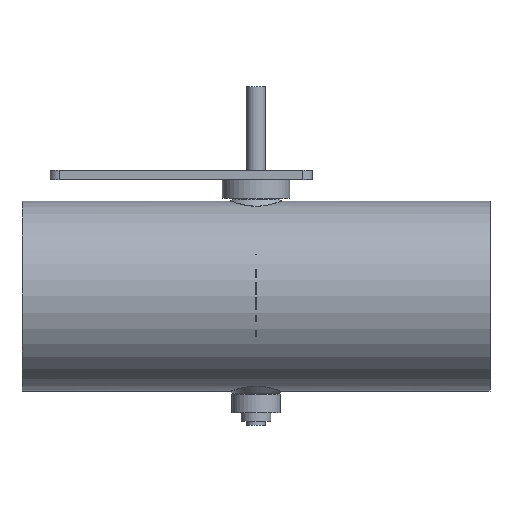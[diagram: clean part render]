
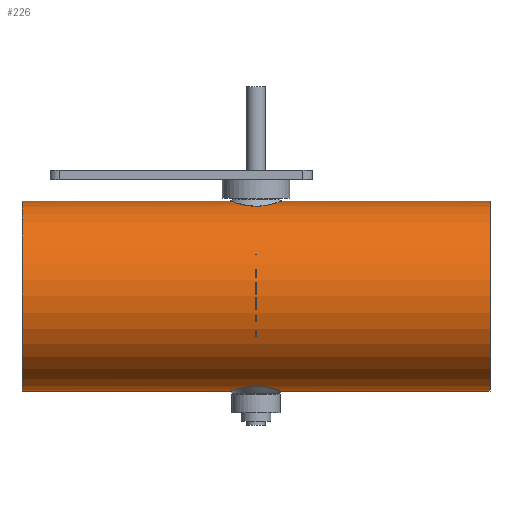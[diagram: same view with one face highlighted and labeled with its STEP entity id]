
A CAD part, top view. The second image highlights one B-rep face of the part: STEP entity #226.
In plain terms, the highlighted cylindrical face has radius 50.8 mm (diameter 101.6 mm), a full revolution.
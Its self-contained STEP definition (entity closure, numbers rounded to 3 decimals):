
#169=B_SPLINE_CURVE_WITH_KNOTS('',3,(#1364,#1365,#1366,#1367,#1368,#1369,
#1370,#1371,#1372,#1373,#1374,#1375,#1376,#1377,#1378,#1379,#1380,#1381,
#1382,#1383,#1384,#1385,#1386,#1387),.UNSPECIFIED.,.T.,.F.,(2,2,2,2,2,2,
2,2,2,2,2,2,2,2),(-0.063,0.,0.063,0.125,0.25,0.375,
0.438,0.5,0.625,0.75,0.875,0.938,1.,1.063),.UNSPECIFIED.);
#170=B_SPLINE_CURVE_WITH_KNOTS('',3,(#1389,#1390,#1391,#1392,#1393,#1394,
#1395,#1396,#1397,#1398,#1399,#1400,#1401,#1402,#1403,#1404,#1405,#1406,
#1407,#1408,#1409,#1410,#1411,#1412,#1413,#1414),.UNSPECIFIED.,.T.,.F.,(2,
2,2,2,2,2,2,2,2,2,2,2,2,2,2),(-0.062,0.,0.063,
0.125,0.25,0.375,0.438,0.5,
0.563,0.625,0.75,0.875,0.938,1.,1.063),.UNSPECIFIED.);
#196=CYLINDRICAL_SURFACE('',#970,50.8);
#226=ADVANCED_FACE('',(#327,#328,#329,#330),#196,.T.);
#327=FACE_BOUND('',#437,.T.);
#328=FACE_BOUND('',#438,.T.);
#329=FACE_BOUND('',#439,.T.);
#330=FACE_BOUND('',#440,.T.);
#437=EDGE_LOOP('',(#561));
#438=EDGE_LOOP('',(#562));
#439=EDGE_LOOP('',(#563));
#440=EDGE_LOOP('',(#564));
#561=ORIENTED_EDGE('',*,*,#813,.T.);
#562=ORIENTED_EDGE('',*,*,#814,.T.);
#563=ORIENTED_EDGE('',*,*,#809,.T.);
#564=ORIENTED_EDGE('',*,*,#811,.T.);
#731=VERTEX_POINT('',#1355);
#733=VERTEX_POINT('',#1360);
#735=VERTEX_POINT('',#1388);
#736=VERTEX_POINT('',#1415);
#809=EDGE_CURVE('',#731,#731,#899,.T.);
#811=EDGE_CURVE('',#733,#733,#901,.T.);
#813=EDGE_CURVE('',#735,#735,#169,.T.);
#814=EDGE_CURVE('',#736,#736,#170,.T.);
#899=CIRCLE('',#964,50.8);
#901=CIRCLE('',#967,50.8);
#964=AXIS2_PLACEMENT_3D('',#1354,#1097,#1098);
#967=AXIS2_PLACEMENT_3D('',#1359,#1103,#1104);
#970=AXIS2_PLACEMENT_3D('',#1416,#1109,#1110);
#1097=DIRECTION('',(-1.,0.,0.));
#1098=DIRECTION('',(0.,0.,1.));
#1103=DIRECTION('',(1.,0.,0.));
#1104=DIRECTION('',(0.,0.,-1.));
#1109=DIRECTION('',(1.,0.,0.));
#1110=DIRECTION('',(0.,0.,-1.));
#1354=CARTESIAN_POINT('',(125.,-8.3,125.));
#1355=CARTESIAN_POINT('',(125.,-8.3,175.8));
#1359=CARTESIAN_POINT('',(-125.,-8.3,125.));
#1360=CARTESIAN_POINT('',(-125.,-8.3,74.2));
#1364=CARTESIAN_POINT('',(-0.641,-56.186,108.034));
#1365=CARTESIAN_POINT('',(-4.642,-56.512,108.986));
#1366=CARTESIAN_POINT('',(-6.468,-56.847,109.98));
#1367=CARTESIAN_POINT('',(-9.553,-57.571,112.56));
#1368=CARTESIAN_POINT('',(-10.827,-57.959,114.145));
#1369=CARTESIAN_POINT('',(-13.777,-58.917,119.411));
#1370=CARTESIAN_POINT('',(-14.546,-59.241,123.656));
#1371=CARTESIAN_POINT('',(-13.401,-58.819,131.681));
#1372=CARTESIAN_POINT('',(-11.513,-58.078,135.52));
#1373=CARTESIAN_POINT('',(-7.107,-56.98,139.59));
#1374=CARTESIAN_POINT('',(-5.35,-56.624,140.679));
#1375=CARTESIAN_POINT('',(-1.462,-56.217,141.883));
#1376=CARTESIAN_POINT('',(0.658,-56.187,141.964));
#1377=CARTESIAN_POINT('',(6.633,-56.676,140.537));
#1378=CARTESIAN_POINT('',(9.833,-57.636,137.623));
#1379=CARTESIAN_POINT('',(13.773,-58.916,130.604));
#1380=CARTESIAN_POINT('',(14.545,-59.241,126.368));
#1381=CARTESIAN_POINT('',(13.406,-58.821,118.329));
#1382=CARTESIAN_POINT('',(11.52,-58.081,114.494));
#1383=CARTESIAN_POINT('',(7.126,-56.984,110.424));
#1384=CARTESIAN_POINT('',(5.371,-56.627,109.329));
#1385=CARTESIAN_POINT('',(1.456,-56.216,108.114));
#1386=CARTESIAN_POINT('',(-0.641,-56.186,108.034));
#1387=CARTESIAN_POINT('',(-4.642,-56.512,108.986));
#1388=CARTESIAN_POINT('',(-2.641,-56.349,108.51));
#1389=CARTESIAN_POINT('',(-4.643,39.912,108.986));
#1390=CARTESIAN_POINT('',(-0.639,39.586,108.033));
#1391=CARTESIAN_POINT('',(1.467,39.617,108.117));
#1392=CARTESIAN_POINT('',(5.359,40.025,109.325));
#1393=CARTESIAN_POINT('',(7.129,40.385,110.426));
#1394=CARTESIAN_POINT('',(11.529,41.484,114.504));
#1395=CARTESIAN_POINT('',(13.415,42.224,118.36));
#1396=CARTESIAN_POINT('',(14.542,42.64,126.377));
#1397=CARTESIAN_POINT('',(13.758,42.311,130.637));
#1398=CARTESIAN_POINT('',(10.814,41.355,135.871));
#1399=CARTESIAN_POINT('',(9.527,40.964,137.467));
#1400=CARTESIAN_POINT('',(6.453,40.245,140.028));
#1401=CARTESIAN_POINT('',(4.6,39.908,141.028));
#1402=CARTESIAN_POINT('',(0.649,39.587,141.961));
#1403=CARTESIAN_POINT('',(-1.48,39.617,141.881));
#1404=CARTESIAN_POINT('',(-5.371,40.027,140.669));
#1405=CARTESIAN_POINT('',(-7.124,40.384,139.578));
#1406=CARTESIAN_POINT('',(-11.526,41.483,135.5));
#1407=CARTESIAN_POINT('',(-13.409,42.222,131.678));
#1408=CARTESIAN_POINT('',(-14.548,42.642,123.589));
#1409=CARTESIAN_POINT('',(-13.777,42.317,119.4));
#1410=CARTESIAN_POINT('',(-10.809,41.353,114.119));
#1411=CARTESIAN_POINT('',(-9.548,40.97,112.554));
#1412=CARTESIAN_POINT('',(-6.46,40.246,109.975));
#1413=CARTESIAN_POINT('',(-4.643,39.912,108.986));
#1414=CARTESIAN_POINT('',(-0.639,39.586,108.033));
#1415=CARTESIAN_POINT('',(-2.641,39.749,108.51));
#1416=CARTESIAN_POINT('',(-125.,-8.3,125.));
